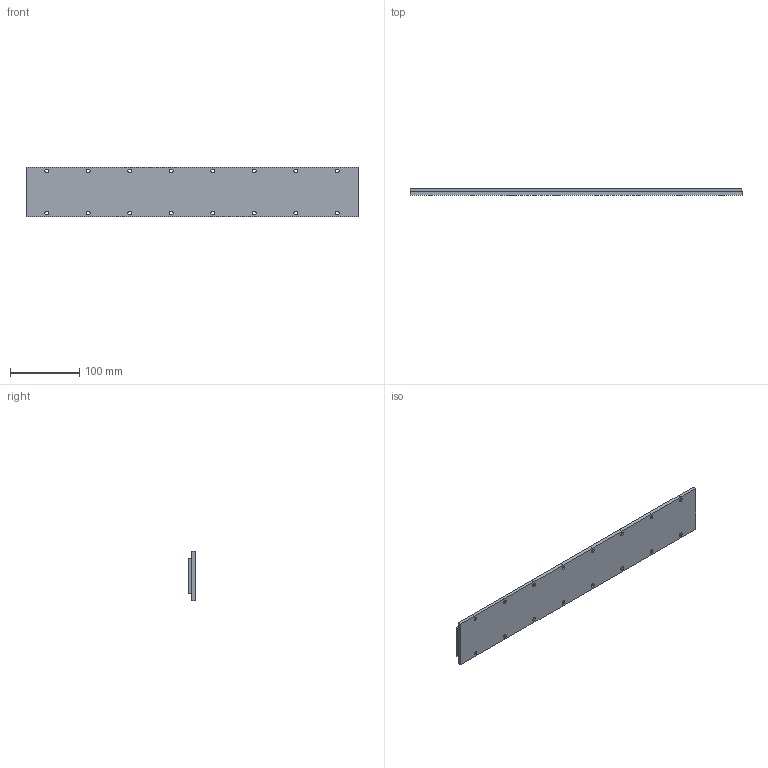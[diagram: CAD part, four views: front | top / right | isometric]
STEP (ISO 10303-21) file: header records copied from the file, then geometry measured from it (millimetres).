
FILE_DESCRIPTION (( 'STEP AP203' ), '1' );
FILE_NAME ('CM480.STEP', '2025-12-28T07:54:47', ( '' ), ( '' ), 'SwSTEP 2.0', 'SolidWorks 2024', '' );
FILE_SCHEMA (( 'CONFIG_CONTROL_DESIGN' ));
Length unit declared in the file: millimetre
Products named in the file (1): CM480
Bounding box: 480 x 9.2 x 72 mm (x, y, z)
Volume: 269933.2 mm3; surface area: 87715.1 mm2
Topology: 1 solids, 1 shells, 133 faces, 320 edges, 208 vertices
Faces by surface type: cylinder 68, plane 53, bspline 12
Entity records: 4267 total; most frequent: CARTESIAN_POINT 970, DIRECTION 676, ORIENTED_EDGE 640, EDGE_CURVE 320, AXIS2_PLACEMENT_3D 258, VERTEX_POINT 208, EDGE_LOOP 184, LINE 160
